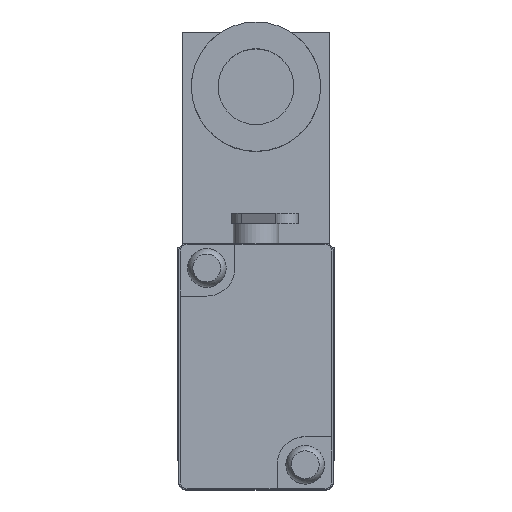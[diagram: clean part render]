
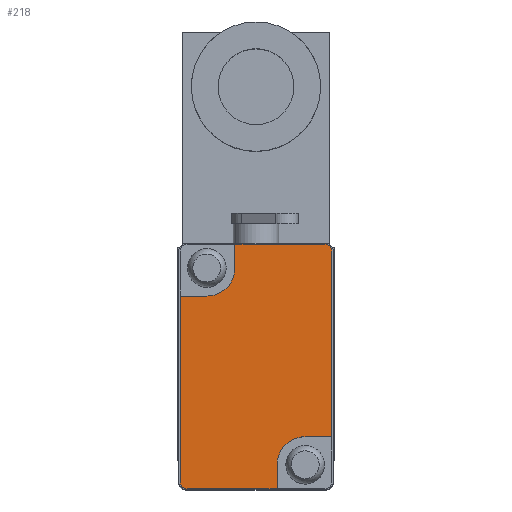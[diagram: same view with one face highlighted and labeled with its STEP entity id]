
A CAD part, top view. The second image highlights one B-rep face of the part: STEP entity #218.
In plain terms, the highlighted planar face has unit normal (0, 0, 1).
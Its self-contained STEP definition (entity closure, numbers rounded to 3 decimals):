
#218 = ADVANCED_FACE( '', ( #514 ), #515, .T. );
#514 = FACE_OUTER_BOUND( '', #907, .T. );
#515 = PLANE( '', #908 );
#907 = EDGE_LOOP( '', ( #1432, #1433, #1434, #1435, #1436, #1437, #1438, #1439, #1440, #1441, #1442, #1443 ) );
#908 = AXIS2_PLACEMENT_3D( '', #1444, #1445, #1446 );
#1432 = ORIENTED_EDGE( '', *, *, #2245, .F. );
#1433 = ORIENTED_EDGE( '', *, *, #2246, .F. );
#1434 = ORIENTED_EDGE( '', *, *, #2116, .F. );
#1435 = ORIENTED_EDGE( '', *, *, #2247, .T. );
#1436 = ORIENTED_EDGE( '', *, *, #2248, .T. );
#1437 = ORIENTED_EDGE( '', *, *, #2249, .T. );
#1438 = ORIENTED_EDGE( '', *, *, #2250, .F. );
#1439 = ORIENTED_EDGE( '', *, *, #2251, .F. );
#1440 = ORIENTED_EDGE( '', *, *, #2252, .F. );
#1441 = ORIENTED_EDGE( '', *, *, #2127, .T. );
#1442 = ORIENTED_EDGE( '', *, *, #2253, .T. );
#1443 = ORIENTED_EDGE( '', *, *, #2254, .T. );
#1444 = CARTESIAN_POINT( '', ( -9.8, 16.4, 52. ) );
#1445 = DIRECTION( '', ( 0., 0., 1. ) );
#1446 = DIRECTION( '', ( 1., 0., 0. ) );
#2116 = EDGE_CURVE( '', #2480, #2481, #2482, .T. );
#2127 = EDGE_CURVE( '', #2499, #2500, #2501, .T. );
#2245 = EDGE_CURVE( '', #2695, #2696, #2697, .T. );
#2246 = EDGE_CURVE( '', #2481, #2695, #2698, .T. );
#2247 = EDGE_CURVE( '', #2480, #2699, #2700, .T. );
#2248 = EDGE_CURVE( '', #2699, #2701, #2702, .T. );
#2249 = EDGE_CURVE( '', #2701, #2703, #2704, .T. );
#2250 = EDGE_CURVE( '', #2705, #2703, #2706, .T. );
#2251 = EDGE_CURVE( '', #2707, #2705, #2708, .T. );
#2252 = EDGE_CURVE( '', #2499, #2707, #2709, .T. );
#2253 = EDGE_CURVE( '', #2500, #2710, #2711, .T. );
#2254 = EDGE_CURVE( '', #2710, #2696, #2712, .T. );
#2480 = VERTEX_POINT( '', #3009 );
#2481 = VERTEX_POINT( '', #3010 );
#2482 = LINE( '', #3011, #3012 );
#2499 = VERTEX_POINT( '', #3060 );
#2500 = VERTEX_POINT( '', #3061 );
#2501 = LINE( '', #3062, #3063 );
#2695 = VERTEX_POINT( '', #3322 );
#2696 = VERTEX_POINT( '', #3323 );
#2697 = LINE( '', #3324, #3325 );
#2698 = CIRCLE( '', #3326, 4. );
#2699 = VERTEX_POINT( '', #3327 );
#2700 = LINE( '', #3328, #3329 );
#2701 = VERTEX_POINT( '', #3330 );
#2702 = CIRCLE( '', #3331, 1. );
#2703 = VERTEX_POINT( '', #3332 );
#2704 = LINE( '', #3333, #3334 );
#2705 = VERTEX_POINT( '', #3335 );
#2706 = LINE( '', #3336, #3337 );
#2707 = VERTEX_POINT( '', #3338 );
#2708 = CIRCLE( '', #3339, 4. );
#2709 = LINE( '', #3340, #3341 );
#2710 = VERTEX_POINT( '', #3342 );
#2711 = CIRCLE( '', #3343, 1. );
#2712 = LINE( '', #3344, #3345 );
#3009 = CARTESIAN_POINT( '', ( 10.8, -10., 52. ) );
#3010 = CARTESIAN_POINT( '', ( 7., -10., 52. ) );
#3011 = CARTESIAN_POINT( '', ( -9.8, -10., 52. ) );
#3012 = VECTOR( '', #3833, 1000. );
#3060 = CARTESIAN_POINT( '', ( -10.8, 10., 52. ) );
#3061 = CARTESIAN_POINT( '', ( -10.8, -16.4, 52. ) );
#3062 = CARTESIAN_POINT( '', ( -10.8, 16.4, 52. ) );
#3063 = VECTOR( '', #3841, 1000. );
#3322 = CARTESIAN_POINT( '', ( 3., -14., 52. ) );
#3323 = CARTESIAN_POINT( '', ( 3., -17.4, 52. ) );
#3324 = CARTESIAN_POINT( '', ( 3., -14., 52. ) );
#3325 = VECTOR( '', #3996, 1000. );
#3326 = AXIS2_PLACEMENT_3D( '', #3997, #3998, #3999 );
#3327 = CARTESIAN_POINT( '', ( 10.8, 16.4, 52. ) );
#3328 = CARTESIAN_POINT( '', ( 10.8, -16.4, 52. ) );
#3329 = VECTOR( '', #4000, 1000. );
#3330 = CARTESIAN_POINT( '', ( 9.8, 17.4, 52. ) );
#3331 = AXIS2_PLACEMENT_3D( '', #4001, #4002, #4003 );
#3332 = CARTESIAN_POINT( '', ( -3., 17.4, 52. ) );
#3333 = CARTESIAN_POINT( '', ( 9.8, 17.4, 52. ) );
#3334 = VECTOR( '', #4004, 1000. );
#3335 = CARTESIAN_POINT( '', ( -3., 14., 52. ) );
#3336 = CARTESIAN_POINT( '', ( -3., 14., 52. ) );
#3337 = VECTOR( '', #4005, 1000. );
#3338 = CARTESIAN_POINT( '', ( -7., 10., 52. ) );
#3339 = AXIS2_PLACEMENT_3D( '', #4006, #4007, #4008 );
#3340 = CARTESIAN_POINT( '', ( -9.8, 10., 52. ) );
#3341 = VECTOR( '', #4009, 1000. );
#3342 = CARTESIAN_POINT( '', ( -9.8, -17.4, 52. ) );
#3343 = AXIS2_PLACEMENT_3D( '', #4010, #4011, #4012 );
#3344 = CARTESIAN_POINT( '', ( -9.8, -17.4, 52. ) );
#3345 = VECTOR( '', #4013, 1000. );
#3833 = DIRECTION( '', ( -1., 0., 0. ) );
#3841 = DIRECTION( '', ( 0., -1., 0. ) );
#3996 = DIRECTION( '', ( 0., -1., 0. ) );
#3997 = CARTESIAN_POINT( '', ( 7., -14., 52. ) );
#3998 = DIRECTION( '', ( 0., 0., 1. ) );
#3999 = DIRECTION( '', ( 1., 0., 0. ) );
#4000 = DIRECTION( '', ( 0., 1., 0. ) );
#4001 = CARTESIAN_POINT( '', ( 9.8, 16.4, 52. ) );
#4002 = DIRECTION( '', ( 0., 0., 1. ) );
#4003 = DIRECTION( '', ( 1., 0., 0. ) );
#4004 = DIRECTION( '', ( -1., 0., 0. ) );
#4005 = DIRECTION( '', ( 0., 1., 0. ) );
#4006 = CARTESIAN_POINT( '', ( -7., 14., 52. ) );
#4007 = DIRECTION( '', ( 0., 0., 1. ) );
#4008 = DIRECTION( '', ( 1., 0., 0. ) );
#4009 = DIRECTION( '', ( 1., 0., 0. ) );
#4010 = CARTESIAN_POINT( '', ( -9.8, -16.4, 52. ) );
#4011 = DIRECTION( '', ( 0., 0., 1. ) );
#4012 = DIRECTION( '', ( 1., 0., 0. ) );
#4013 = DIRECTION( '', ( 1., 0., 0. ) );
